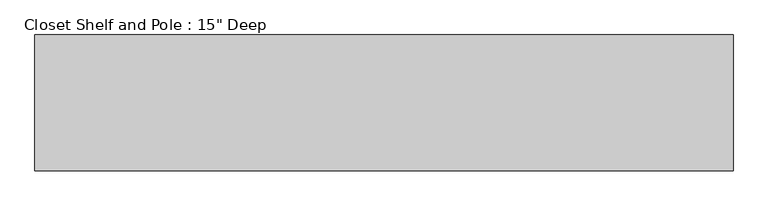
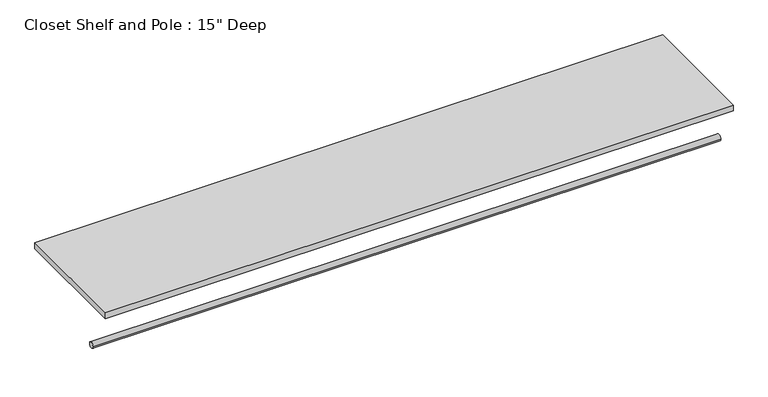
"""IFC4 building model written with IfcOpenShell, lengths in millimetres: proxy geometry."""

from ifc_helpers import new_model, si_unit, point, frame, frame_2d, origin, place, context, project, spatial, polyline, circle_curve, trimmed, segment, composite_curve, outline, extrude, source, transform, mapped, element, save


def proxy_146847b8(model_context):
    return source(origin(), model_context, "Body", "SweptSolid", [
        extrude(outline(composite_curve([segment(trimmed(circle_curve(frame_2d((-304.8, 1676.4)), 9.525), [point((-314.325, 1676.4))], [point((-295.275, 1676.4))], False, "CARTESIAN"), True, "CONTINUOUS"), segment(trimmed(circle_curve(frame_2d((-304.8, 1676.4)), 9.525), [point((-295.275, 1676.4))], [point((-314.325, 1676.4))], False, "CARTESIAN"), True, "CONTINUOUS")], self_intersect=False)), frame((0.0, 0.0, 0.0), z_axis=(1.0, 0.0, 0.0), x_axis=(0.0, 1.0, 0.0)), (0.0, 0.0, 1.0), 1955.8),
        extrude(outline(polyline([(1955.8, 0.0), (1955.8, -381.0), (0.0, -381.0), (0.0, 0.0), (1955.8, 0.0)])), frame((0.0, 0.0, 1809.75), z_axis=(0.0, 0.0, 1.0), x_axis=(1.0, 0.0, 0.0)), (0.0, 0.0, 1.0), 19.05),
    ])


if __name__ == "__main__":
    model = new_model("IFC4")
    model_context = context("Model", 3, world=origin())
    ifc_project = project(units=[si_unit("LENGTHUNIT", "METRE", prefix="MILLI")], contexts=[model_context])
    site = spatial("IfcSite", under=ifc_project)
    building = spatial("IfcBuilding", under=site)
    placement = place(None, origin())
    proxy_shape = proxy_146847b8(model_context)
    element("IfcBuildingElementProxy", 1, Name="Closet Shelf and Pole : 15\" Deep", ObjectType="Closet Shelf and Pole : 15\" Deep", at=placement, inside=building, context=model_context, shape_type="MappedRepresentation", body=[
        mapped(proxy_shape, transform((0.0, 0.0, 0.0), x_axis=(1.0, 0.0, 0.0), y_axis=(0.0, 1.0, 0.0), z_axis=(0.0, 0.0, 1.0))),
    ])
    save(model, "model.ifc")
